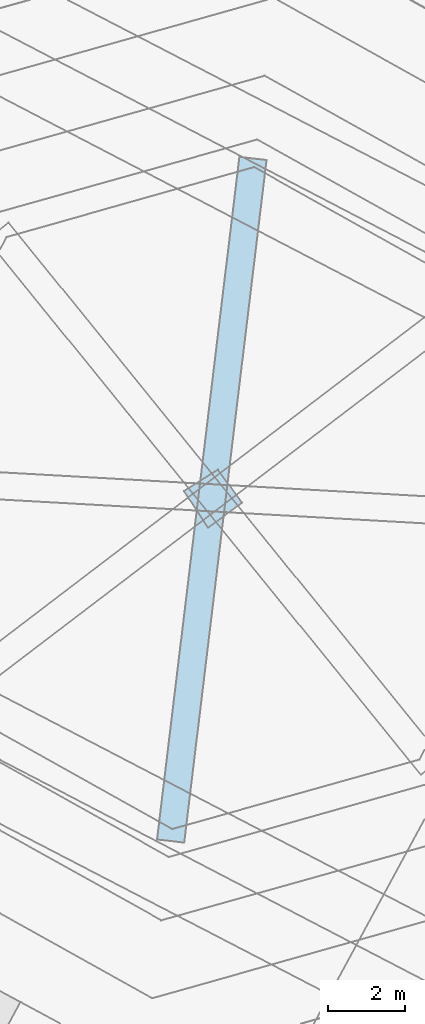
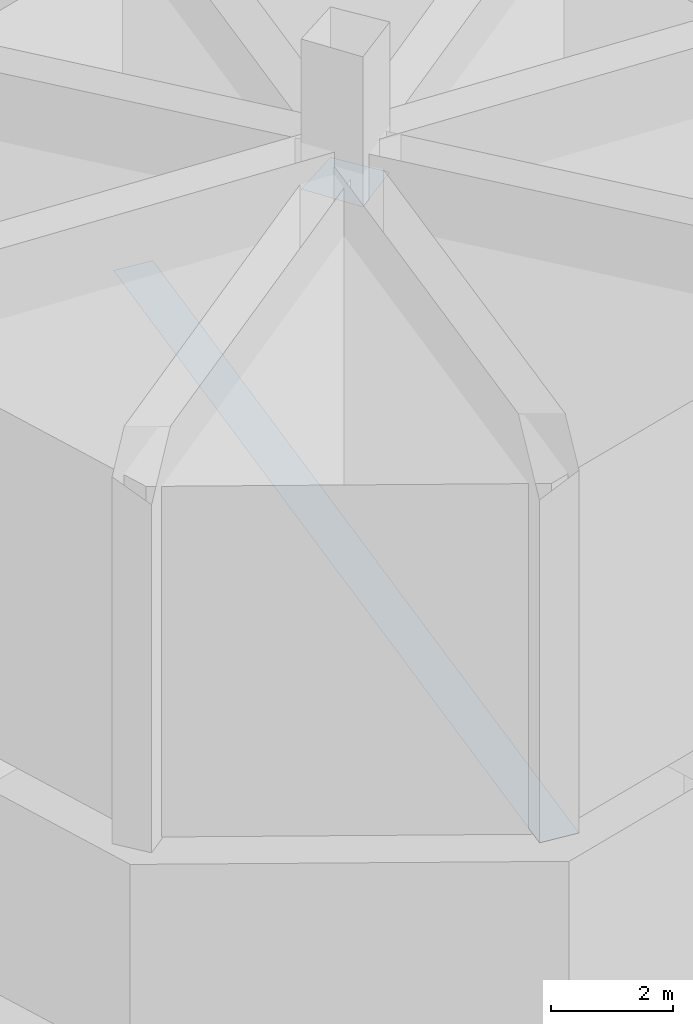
# Not in any storey, part 8 of 76: 2 footings.
"""IFC2X3 model written with IfcOpenShell, lengths in metres."""

from ifc_helpers import new_model, si_unit, frame, origin_with_axes, place, context, subcontext, project, faceted_brep, element, save


model = new_model("IFC2X3")

# Units and contexts
model_context = context("Model", 3, precision=1e-05, world=origin_with_axes())
body_context = subcontext(model_context, "Body", "Model", "MODEL_VIEW")
ifc_project = project(units=[si_unit("AREAUNIT", "SQUARE_METRE"), si_unit("LENGTHUNIT", "METRE")], contexts=[model_context])

# Footings
footing_1_placement = place(None, frame((205.5562085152, 290.3465658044, 267.1773750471), z_axis=(0.0, 0.0, 1.0), x_axis=(1.0, 0.0, 0.0)))
element("IfcFooting", 1, at=footing_1_placement, Name="Sol 0", PredefinedType="STRIP_FOOTING", context=body_context, shape_type="Brep", body=[
    faceted_brep([(0.6187999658, -0.947598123, 0.0), (0.0, 0.0, 0.0), (0.87146067, 0.5541448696, 0.0), (1.4976682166, -0.304548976, 0.0)], [[[0, 1, 2]], [[2, 3, 0]]]),
])
footing_2_placement = place(None, frame((204.8589467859, 281.3456288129, 259.8320280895), z_axis=(0.0, 0.0, 1.0), x_axis=(1.0, 0.0, 0.0)))
element("IfcFooting", 2, at=footing_2_placement, Name="Sol 0", PredefinedType="STRIP_FOOTING", context=body_context, shape_type="Brep", body=[
    faceted_brep([(0.7015744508, -0.0806595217, 0.0), (0.0, 0.0, 0.0), (2.1249003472, 17.6217888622, 0.0), (2.8264731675, 17.5411295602, 0.0)], [[[0, 1, 2]], [[2, 3, 0]]]),
])

save(model, "model.ifc")
